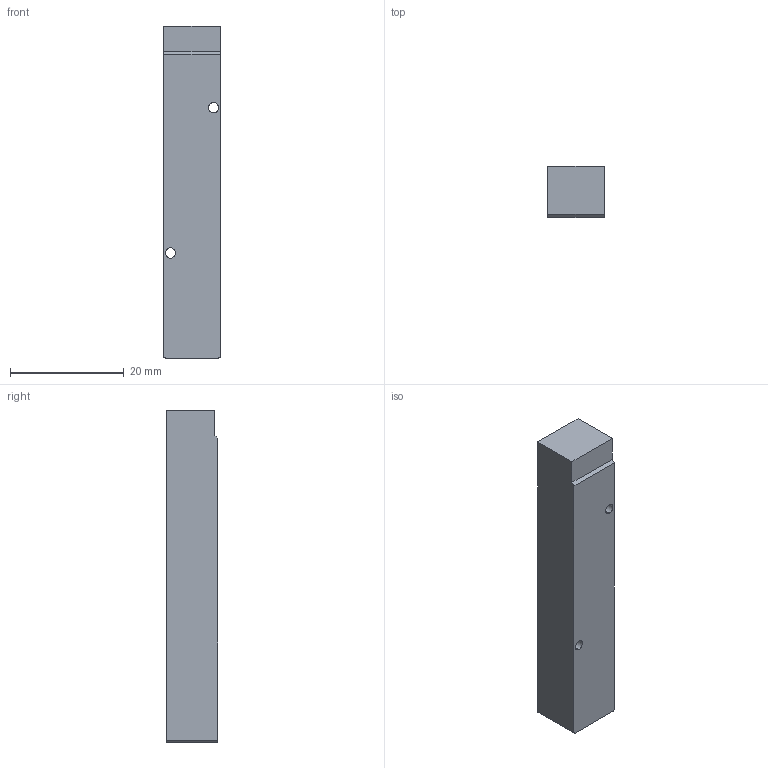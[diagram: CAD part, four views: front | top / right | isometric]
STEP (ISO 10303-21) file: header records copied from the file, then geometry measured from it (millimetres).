
FILE_DESCRIPTION( (''), '2;1');
FILE_NAME ('CVICAD02.11724.F10ZX-Nxx_6613.stp','2020-09-01T14:14:24',(''),(''),'spGate 12.6.6','','');
FILE_SCHEMA (('AUTOMOTIVE_DESIGN'));
Length unit declared in the file: millimetre
Bounding box: 10 x 9 x 58.5 mm (x, y, z)
Volume: 5096.9 mm3; surface area: 2563.1 mm2
Topology: 1 solids, 1 shells, 17 faces, 44 edges, 30 vertices
Faces by surface type: plane 9, cylinder 8
Entity records: 901 total; most frequent: CARTESIAN_POINT 97, DIRECTION 90, ORIENTED_EDGE 88, COLOUR_RGB 62, PRESENTATION_STYLE_ASSIGNMENT 62, STYLED_ITEM 62, EDGE_CURVE 44, DRAUGHTING_PRE_DEFINED_CURVE_FONT 44
